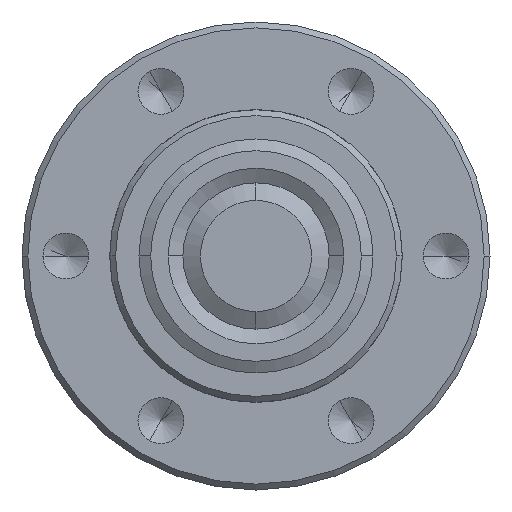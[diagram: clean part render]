
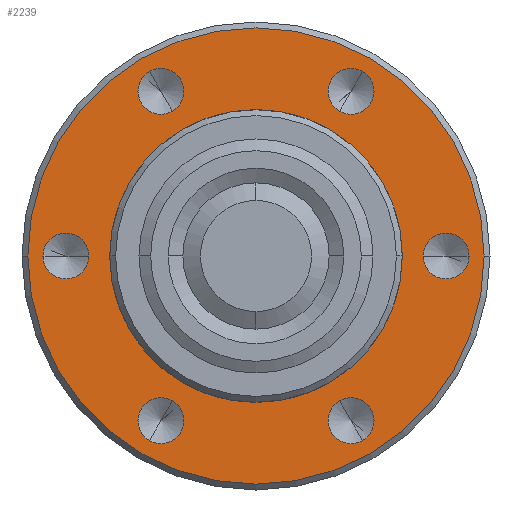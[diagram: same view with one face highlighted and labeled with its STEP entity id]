
A CAD part, left-side view. The second image highlights one B-rep face of the part: STEP entity #2239.
In plain terms, the highlighted planar face has unit normal (-1, 0, 0).
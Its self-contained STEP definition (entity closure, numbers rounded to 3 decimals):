
#97=CARTESIAN_POINT('',(0.,0.,0.));
#98=DIRECTION('',(-1.,0.,0.));
#99=DIRECTION('',(0.,1.,0.));
#100=AXIS2_PLACEMENT_3D('',#97,#98,#99);
#105=CARTESIAN_POINT('',(0.,0.,0.));
#106=DIRECTION('',(-1.,0.,0.));
#107=DIRECTION('',(0.,-1.,0.));
#108=AXIS2_PLACEMENT_3D('',#105,#106,#107);
#113=CARTESIAN_POINT('',(0.,3.25,-5.629));
#114=DIRECTION('',(1.,0.,0.));
#115=DIRECTION('',(0.,-0.5,0.866));
#116=AXIS2_PLACEMENT_3D('',#113,#114,#115);
#121=CARTESIAN_POINT('',(0.,3.25,-5.629));
#122=DIRECTION('',(1.,0.,0.));
#123=DIRECTION('',(0.,0.5,-0.866));
#124=AXIS2_PLACEMENT_3D('',#121,#122,#123);
#129=CARTESIAN_POINT('',(0.,-3.25,-5.629));
#130=DIRECTION('',(1.,0.,0.));
#131=DIRECTION('',(0.,0.5,0.866));
#132=AXIS2_PLACEMENT_3D('',#129,#130,#131);
#137=CARTESIAN_POINT('',(0.,-3.25,-5.629));
#138=DIRECTION('',(1.,0.,0.));
#139=DIRECTION('',(0.,-0.5,-0.866));
#140=AXIS2_PLACEMENT_3D('',#137,#138,#139);
#145=CARTESIAN_POINT('',(0.,-6.5,0.));
#146=DIRECTION('',(1.,0.,0.));
#147=DIRECTION('',(0.,1.,0.));
#148=AXIS2_PLACEMENT_3D('',#145,#146,#147);
#153=CARTESIAN_POINT('',(0.,-6.5,0.));
#154=DIRECTION('',(1.,0.,0.));
#155=DIRECTION('',(0.,-1.,0.));
#156=AXIS2_PLACEMENT_3D('',#153,#154,#155);
#161=CARTESIAN_POINT('',(0.,-3.25,5.629));
#162=DIRECTION('',(1.,0.,0.));
#163=DIRECTION('',(0.,0.5,-0.866));
#164=AXIS2_PLACEMENT_3D('',#161,#162,#163);
#169=CARTESIAN_POINT('',(0.,-3.25,5.629));
#170=DIRECTION('',(1.,0.,0.));
#171=DIRECTION('',(0.,-0.5,0.866));
#172=AXIS2_PLACEMENT_3D('',#169,#170,#171);
#177=CARTESIAN_POINT('',(0.,3.25,5.629));
#178=DIRECTION('',(1.,0.,0.));
#179=DIRECTION('',(0.,-0.5,-0.866));
#180=AXIS2_PLACEMENT_3D('',#177,#178,#179);
#185=CARTESIAN_POINT('',(0.,3.25,5.629));
#186=DIRECTION('',(1.,0.,0.));
#187=DIRECTION('',(0.,0.5,0.866));
#188=AXIS2_PLACEMENT_3D('',#185,#186,#187);
#193=CARTESIAN_POINT('',(0.,6.5,0.));
#194=DIRECTION('',(1.,0.,0.));
#195=DIRECTION('',(0.,-1.,0.));
#196=AXIS2_PLACEMENT_3D('',#193,#194,#195);
#201=CARTESIAN_POINT('',(0.,6.5,0.));
#202=DIRECTION('',(1.,0.,0.));
#203=DIRECTION('',(0.,1.,0.));
#204=AXIS2_PLACEMENT_3D('',#201,#202,#203);
#1215=CARTESIAN_POINT('',(0.,0.,0.));
#1216=DIRECTION('',(1.,0.,0.));
#1217=DIRECTION('',(0.,1.,0.));
#1218=AXIS2_PLACEMENT_3D('',#1215,#1216,#1217);
#1230=CARTESIAN_POINT('',(0.,0.,0.));
#1231=DIRECTION('',(-1.,0.,0.));
#1232=DIRECTION('',(0.,1.,0.));
#1233=AXIS2_PLACEMENT_3D('',#1230,#1231,#1232);
#1862=CARTESIAN_POINT('',(0.,5.715,0.));
#1863=CARTESIAN_POINT('',(0.,7.285,0.));
#1864=VERTEX_POINT('',#1862);
#1865=VERTEX_POINT('',#1863);
#1872=CARTESIAN_POINT('',(0.,2.858,4.949));
#1873=CARTESIAN_POINT('',(0.,3.643,6.309));
#1874=VERTEX_POINT('',#1872);
#1875=VERTEX_POINT('',#1873);
#1882=CARTESIAN_POINT('',(0.,-2.858,4.949));
#1883=CARTESIAN_POINT('',(0.,-3.643,6.309));
#1884=VERTEX_POINT('',#1882);
#1885=VERTEX_POINT('',#1883);
#1892=CARTESIAN_POINT('',(0.,-5.715,0.));
#1893=CARTESIAN_POINT('',(0.,-7.285,0.));
#1894=VERTEX_POINT('',#1892);
#1895=VERTEX_POINT('',#1893);
#1902=CARTESIAN_POINT('',(0.,-2.858,-4.949));
#1903=CARTESIAN_POINT('',(0.,-3.643,-6.309));
#1904=VERTEX_POINT('',#1902);
#1905=VERTEX_POINT('',#1903);
#1912=CARTESIAN_POINT('',(0.,2.858,-4.949));
#1913=CARTESIAN_POINT('',(0.,3.643,-6.309));
#1914=VERTEX_POINT('',#1912);
#1915=VERTEX_POINT('',#1913);
#1916=CARTESIAN_POINT('',(0.,7.8,0.));
#1917=CARTESIAN_POINT('',(0.,-7.8,0.));
#1918=VERTEX_POINT('',#1916);
#1919=VERTEX_POINT('',#1917);
#1952=CARTESIAN_POINT('',(0.,5.,0.));
#1954=VERTEX_POINT('',#1952);
#1960=CARTESIAN_POINT('',(0.,-5.,0.));
#1962=VERTEX_POINT('',#1960);
#2187=CARTESIAN_POINT('',(0.,0.,0.));
#2188=DIRECTION('',(-1.,0.,0.));
#2189=DIRECTION('',(0.,1.,0.));
#2190=AXIS2_PLACEMENT_3D('',#2187,#2188,#2189);
#2191=PLANE('',#2190);
#2192=ORIENTED_EDGE('',*,*,#2165,.F.);
#2194=ORIENTED_EDGE('',*,*,#2193,.F.);
#2195=EDGE_LOOP('',(#2192,#2194));
#2196=FACE_OUTER_BOUND('',#2195,.F.);
#2198=ORIENTED_EDGE('',*,*,#2197,.F.);
#2200=ORIENTED_EDGE('',*,*,#2199,.F.);
#2201=EDGE_LOOP('',(#2198,#2200));
#2202=FACE_BOUND('',#2201,.F.);
#2204=ORIENTED_EDGE('',*,*,#2203,.F.);
#2206=ORIENTED_EDGE('',*,*,#2205,.F.);
#2207=EDGE_LOOP('',(#2204,#2206));
#2208=FACE_BOUND('',#2207,.F.);
#2210=ORIENTED_EDGE('',*,*,#2209,.F.);
#2212=ORIENTED_EDGE('',*,*,#2211,.F.);
#2213=EDGE_LOOP('',(#2210,#2212));
#2214=FACE_BOUND('',#2213,.F.);
#2216=ORIENTED_EDGE('',*,*,#2215,.F.);
#2218=ORIENTED_EDGE('',*,*,#2217,.F.);
#2219=EDGE_LOOP('',(#2216,#2218));
#2220=FACE_BOUND('',#2219,.F.);
#2222=ORIENTED_EDGE('',*,*,#2221,.F.);
#2224=ORIENTED_EDGE('',*,*,#2223,.F.);
#2225=EDGE_LOOP('',(#2222,#2224));
#2226=FACE_BOUND('',#2225,.F.);
#2228=ORIENTED_EDGE('',*,*,#2227,.F.);
#2230=ORIENTED_EDGE('',*,*,#2229,.F.);
#2231=EDGE_LOOP('',(#2228,#2230));
#2232=FACE_BOUND('',#2231,.F.);
#2234=ORIENTED_EDGE('',*,*,#2233,.F.);
#2236=ORIENTED_EDGE('',*,*,#2235,.T.);
#2237=EDGE_LOOP('',(#2234,#2236));
#2238=FACE_BOUND('',#2237,.F.);
#2239=ADVANCED_FACE('',(#2196,#2202,#2208,#2214,#2220,#2226,#2232,#2238),#2191,
.T.);
#101=CIRCLE('',#100,7.8);
#109=CIRCLE('',#108,7.8);
#117=CIRCLE('',#116,0.785);
#125=CIRCLE('',#124,0.785);
#133=CIRCLE('',#132,0.785);
#141=CIRCLE('',#140,0.785);
#149=CIRCLE('',#148,0.785);
#157=CIRCLE('',#156,0.785);
#165=CIRCLE('',#164,0.785);
#173=CIRCLE('',#172,0.785);
#181=CIRCLE('',#180,0.785);
#189=CIRCLE('',#188,0.785);
#197=CIRCLE('',#196,0.785);
#205=CIRCLE('',#204,0.785);
#1219=CIRCLE('',#1218,5.);
#1234=CIRCLE('',#1233,5.);
#2165=EDGE_CURVE('',#1918,#1919,#101,.T.);
#2193=EDGE_CURVE('',#1919,#1918,#109,.T.);
#2197=EDGE_CURVE('',#1914,#1915,#117,.T.);
#2199=EDGE_CURVE('',#1915,#1914,#125,.T.);
#2203=EDGE_CURVE('',#1904,#1905,#133,.T.);
#2205=EDGE_CURVE('',#1905,#1904,#141,.T.);
#2209=EDGE_CURVE('',#1894,#1895,#149,.T.);
#2211=EDGE_CURVE('',#1895,#1894,#157,.T.);
#2215=EDGE_CURVE('',#1884,#1885,#165,.T.);
#2217=EDGE_CURVE('',#1885,#1884,#173,.T.);
#2221=EDGE_CURVE('',#1874,#1875,#181,.T.);
#2223=EDGE_CURVE('',#1875,#1874,#189,.T.);
#2227=EDGE_CURVE('',#1864,#1865,#197,.T.);
#2229=EDGE_CURVE('',#1865,#1864,#205,.T.);
#2233=EDGE_CURVE('',#1954,#1962,#1219,.T.);
#2235=EDGE_CURVE('',#1954,#1962,#1234,.T.);
